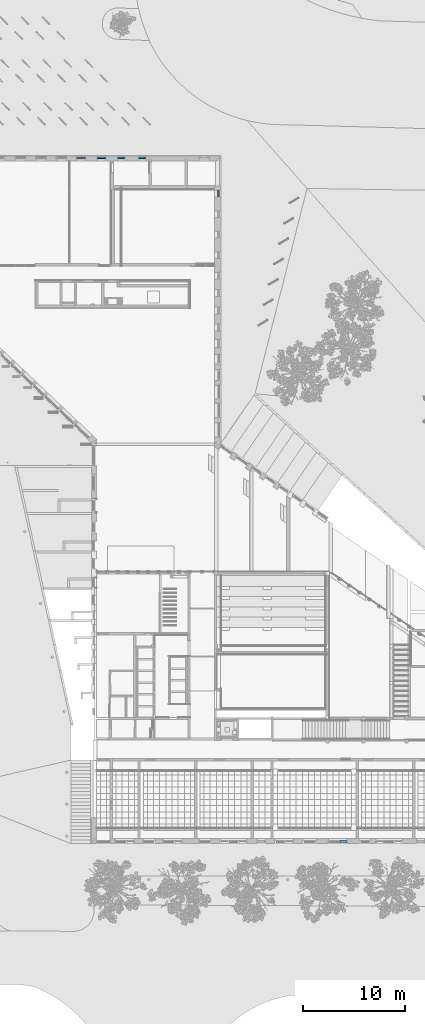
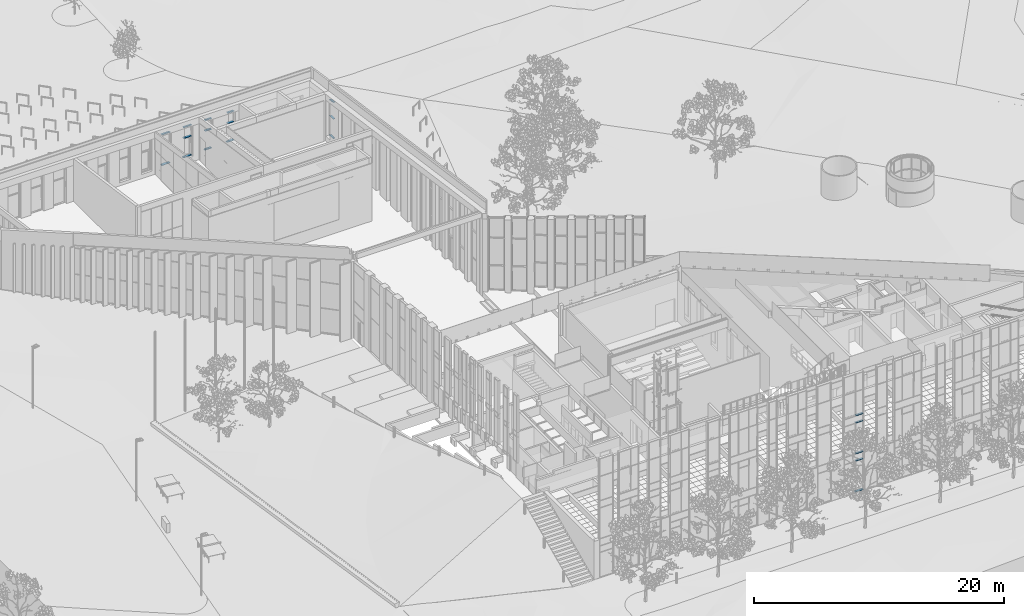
# One storey, part 38 of 246: 19 members, 6 elements without a shape of their own.
"""IFC2X3 building model written with IfcOpenShell, lengths in millimetres."""

from ifc_helpers import new_model, entity, si_unit, converted_unit, derived_unit, money_unit, direction, frame, origin_with_axes, place, context, subcontext, project, spatial, faceted_brep, source, transform, mapped, material, type_object, element, aggregate, save


model = new_model("IFC2X3")

# Units and contexts
model_context = context("Model", 3, precision=0.01, world=origin_with_axes(), true_north=direction((0.0, 1.0)))
body_context = subcontext(model_context, "Body", "Model", "MODEL_VIEW")
ifc_project = project(units=[si_unit("LENGTHUNIT", "METRE", prefix="MILLI"), si_unit("AREAUNIT", "SQUARE_METRE"), si_unit("VOLUMEUNIT", "CUBIC_METRE"), converted_unit("PLANEANGLEUNIT", "DEGREE", entity("IfcPlaneAngleMeasure", 0.0174532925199), si_unit("PLANEANGLEUNIT", "RADIAN"), dimensions=[0, 0, 0, 0, 0, 0, 0]), si_unit("SOLIDANGLEUNIT", "STERADIAN"), money_unit("EUR"), converted_unit("TIMEUNIT", "Year", entity("IfcTimeMeasure", 31556926.0), si_unit("TIMEUNIT", "SECOND"), dimensions=[0, 0, 1, 0, 0, 0, 0]), si_unit("MASSUNIT", "GRAM", prefix="KILO"), si_unit("THERMODYNAMICTEMPERATUREUNIT", "DEGREE_CELSIUS"), si_unit("LUMINOUSINTENSITYUNIT", "LUMEN"), si_unit("ENERGYUNIT", "JOULE", prefix="MEGA"), derived_unit("THERMALCONDUCTANCEUNIT", [(si_unit("POWERUNIT", "WATT"), 1), (si_unit("LENGTHUNIT", "METRE"), -1), (si_unit("THERMODYNAMICTEMPERATUREUNIT", "KELVIN"), -1)]), derived_unit("SPECIFICHEATCAPACITYUNIT", [(si_unit("ENERGYUNIT", "JOULE"), 1), (si_unit("MASSUNIT", "GRAM", prefix="KILO"), -1), (si_unit("THERMODYNAMICTEMPERATUREUNIT", "KELVIN"), -1)]), derived_unit("MASSDENSITYUNIT", [(si_unit("MASSUNIT", "GRAM", prefix="KILO"), 1), (si_unit("VOLUMEUNIT", "CUBIC_METRE"), -1)])], contexts=[model_context])

# Site, building, storey
site_placement = place(None, origin_with_axes())
site = spatial("IfcSite", under=ifc_project, at=site_placement, Name="L.Koidula tn 11b", CompositionType="ELEMENT")
building_placement = place(site_placement, origin_with_axes())
building = spatial("IfcBuilding", under=site, at=building_placement, Name="Rakvere Riigigümnaasium", CompositionType="ELEMENT")
storey_placement = place(building_placement, origin_with_axes())
storey = spatial("IfcBuildingStorey", under=building, at=storey_placement, Name="1.korrus 0,00", CompositionType="ELEMENT", Elevation=0.0)

# Curtain wall, members
curtain_wall_type = type_object("IfcCurtainWallType", Name="Curtain Wall Type", PredefinedType="NOTDEFINED")
curtain_wall_1_placement = place(storey_placement, frame((59064.0000846, 5111.45334637, -8.09717250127e-06), z_axis=(0.0, 0.0, 1.0), x_axis=(1.0, 0.0, 0.0)))
curtain_wall_1 = element("IfcCurtainWall", 1, at=curtain_wall_1_placement, inside=storey, type_object=curtain_wall_type, Name="KLF-05-2A")
ifc_material = material(Name="Alumiiniumprofiil (RAL 7021)")
member_type_1 = type_object("IfcMemberType", Name="50 x 208", PredefinedType="MULLION")
shared_shape_1 = source(origin_with_axes(), body_context, "Body", "Brep", [
    faceted_brep([(-12.0, -27.0, 730.000256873), (-25.0, -27.0, 730.000256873), (-25.0, -160.0, 730.000256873), (25.0, -160.0, 730.000256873), (25.0, -27.0, 730.000256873), (12.0, -27.0, 730.000256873), (12.0, 27.0, 730.000256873), (25.0, 27.0, 730.000256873), (25.0, 48.0, 730.000256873), (-25.0, 48.0, 730.000256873), (-25.0, 27.0, 730.000256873), (-12.0, 27.0, 730.000256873), (-12.0, -27.0, 25.0), (-25.0, -27.0, 25.0), (-25.0, -160.0, 25.0), (25.0, -160.0, 25.0), (25.0, -27.0, 25.0), (12.0, -27.0, 25.0), (12.0, 27.0, 25.0), (25.0, 27.0, 25.0), (25.0, 48.0, 25.0), (-25.0, 48.0, 25.0), (-25.0, 27.0, 25.0), (-12.0, 27.0, 25.0)], [[[0, 1, 2, 3, 4, 5, 6, 7, 8, 9, 10, 11]], [[1, 0, 12, 13]], [[1, 13, 14, 2]], [[2, 14, 15, 3]], [[4, 3, 15, 16]], [[4, 16, 17, 5]], [[5, 17, 18, 6]], [[7, 6, 18, 19]], [[19, 20, 8, 7]], [[8, 20, 21, 9]], [[22, 10, 9, 21]], [[11, 10, 22, 23]], [[0, 11, 23, 12]], [[23, 22, 21, 20, 19, 18, 17, 16, 15, 14, 13, 12]]]),
])
member_1_placement = place(curtain_wall_1_placement, frame((140.999912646, 0.0, 6760.0), z_axis=(1.0, 0.0, 0.0), x_axis=(0.0, 0.0, 1.0)))
member_1 = element("IfcMember", 2, at=member_1_placement, type_object=member_type_1, material=ifc_material, Name="KLF-33", ObjectType="MULLION", context=body_context, shape_type="MappedRepresentation", body=[
    mapped(shared_shape_1, transform((0.0, 0.0, 0.0))),
])
member_2_placement = place(curtain_wall_1_placement, frame((140.999912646, 0.0, 3745.0), z_axis=(1.0, 0.0, 0.0), x_axis=(0.0, 0.0, 1.0)))
member_2 = element("IfcMember", 3, at=member_2_placement, type_object=member_type_1, material=ifc_material, Name="KLF-08", ObjectType="MULLION", context=body_context, shape_type="MappedRepresentation", body=[
    mapped(shared_shape_1, transform((0.0, 0.0, 0.0))),
])
member_3_placement = place(curtain_wall_1_placement, frame((140.999912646, 0.0, 7465.0), z_axis=(1.0, 0.0, 0.0), x_axis=(0.0, 0.0, 1.0)))
member_3 = element("IfcMember", 4, at=member_3_placement, type_object=member_type_1, material=ifc_material, Name="KLF-57", ObjectType="MULLION", context=body_context, shape_type="MappedRepresentation", body=[
    mapped(shared_shape_1, transform((0.0, 0.0, 0.0))),
])
member_4_placement = place(curtain_wall_1_placement, frame((140.999912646, 0.0, 3040.0), z_axis=(1.0, 0.0, 0.0), x_axis=(0.0, 0.0, 1.0)))
member_4 = element("IfcMember", 5, at=member_4_placement, type_object=member_type_1, material=ifc_material, Name="KLF-09", ObjectType="MULLION", context=body_context, shape_type="MappedRepresentation", body=[
    mapped(shared_shape_1, transform((0.0, 0.0, 0.0))),
])

# Curtain wall, member
curtain_wall_2_placement = place(storey_placement, frame((39944.5199736, 71934.4519938, 599.999957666), z_axis=(0.0, 0.0, 1.0), x_axis=(1.0, 0.0, 0.0)))
curtain_wall_2 = element("IfcCurtainWall", 6, at=curtain_wall_2_placement, inside=storey, type_object=curtain_wall_type, Name="KLF-08-10")
member_type_2 = type_object("IfcMemberType", Name="Transom Frame 50 x 170", PredefinedType="MULLION")
shared_shape_2 = source(origin_with_axes(), body_context, "Body", "Brep", [
    faceted_brep([(12.0, -26.0, 599.999961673), (12.0, 26.0, 599.999961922), (25.0, 26.0, 599.999961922), (25.0, 46.0, 599.999962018), (-25.0, 46.0, 599.999962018), (-25.0, 26.0, 599.999961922), (-12.0, 26.0, 599.999961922), (-12.0, -26.0, 599.999961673), (-25.0, -26.0, 599.999961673), (-25.0, -124.0, 599.999961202), (25.0, -124.0, 599.999961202), (25.0, -26.0, 599.999961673), (12.0, -26.0, 50.0), (12.0, 26.0, 50.0), (25.0, 26.0, 50.0), (25.0, 46.0, 50.0), (-25.0, 46.0, 50.0), (-25.0, 26.0, 50.0), (-12.0, 26.0, 50.0), (-12.0, -26.0, 50.0), (-25.0, -26.0, 50.0), (-25.0, -124.0, 50.0), (25.0, -124.0, 50.0), (25.0, -26.0, 50.0)], [[[0, 1, 2, 3, 4, 5, 6, 7, 8, 9, 10, 11]], [[0, 12, 13, 1]], [[1, 13, 14, 2]], [[14, 15, 3, 2]], [[4, 3, 15, 16]], [[17, 5, 4, 16]], [[5, 17, 18, 6]], [[7, 6, 18, 19]], [[8, 7, 19, 20]], [[8, 20, 21, 9]], [[10, 9, 21, 22]], [[11, 10, 22, 23]], [[11, 23, 12, 0]], [[13, 12, 23, 22, 21, 20, 19, 18, 17, 16, 15, 14]]]),
])
member_5_placement = place(curtain_wall_2_placement, frame((-324.999985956, 0.0, 1820.0001719), z_axis=(1.0, 0.0, 0.0), x_axis=(0.0, 0.0, 1.0)))
member_5 = element("IfcMember", 7, at=member_5_placement, type_object=member_type_2, material=ifc_material, Name="KLF-08-27-Profiilid", ObjectType="MULLION", context=body_context, shape_type="MappedRepresentation", body=[
    mapped(shared_shape_2, transform((0.0, 0.0, 0.0), x_axis=(-1.0, 0.0, 0.0), y_axis=(0.0, -1.0, 0.0), z_axis=(0.0, 0.0, 1.0))),
])

curtain_wall_3_placement = place(storey_placement, frame((47433.9999935, 68420.4546651, 500.0), z_axis=(0.0, 0.0, 1.0), x_axis=(1.0, 0.0, 0.0)))
curtain_wall_3 = element("IfcCurtainWall", 8, at=curtain_wall_3_placement, inside=storey, type_object=curtain_wall_type, Name="KLF-07-14")
member_6_placement = place(curtain_wall_3_placement, frame((0.0, 325.000053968, 1900.0), z_axis=(0.0, -1.0, 0.0), x_axis=(0.0, 0.0, 1.0)))
member_6 = element("IfcMember", 9, at=member_6_placement, type_object=member_type_2, material=ifc_material, Name="KLF-07-24-Profiilid", ObjectType="MULLION", context=body_context, shape_type="MappedRepresentation", body=[
    mapped(shared_shape_2, transform((0.0, 0.0, 0.0), x_axis=(-1.0, 0.0, 0.0), y_axis=(0.0, -1.0, 0.0), z_axis=(0.0, 0.0, 1.0))),
])

curtain_wall_4_placement = place(storey_placement, frame((37894.5353831, 71934.4519938, 550.0), z_axis=(0.0, 0.0, 1.0), x_axis=(1.0, 0.0, 0.0)))
curtain_wall_4 = element("IfcCurtainWall", 10, at=curtain_wall_4_placement, inside=storey, type_object=curtain_wall_type, Name="KLF-08-09")
member_7_placement = place(curtain_wall_4_placement, frame((-325.000094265, 0.0, 1850.00012484), z_axis=(1.0, 0.0, 0.0), x_axis=(0.0, 0.0, 1.0)))
member_7 = element("IfcMember", 11, at=member_7_placement, type_object=member_type_2, material=ifc_material, Name="KLF-08-26-Profiilid", ObjectType="MULLION", context=body_context, shape_type="MappedRepresentation", body=[
    mapped(shared_shape_2, transform((0.0, 0.0, 0.0), x_axis=(-1.0, 0.0, 0.0), y_axis=(0.0, -1.0, 0.0), z_axis=(0.0, 0.0, 1.0))),
])

# Member
member_type_3 = type_object("IfcMemberType", Name="Boundary Frame 50 x 170", PredefinedType="MULLION")
shared_shape_3 = source(origin_with_axes(), body_context, "Body", "Brep", [
    faceted_brep([(-37.0, -26.0, 612.999970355), (-50.0, -26.0, 599.999970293), (-50.0, -124.0, 599.999970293), (0.0, -124.0, 649.999970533), (0.0, 46.0, 649.999970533), (-50.0, 46.0, 599.999970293), (-50.0, 26.0, 599.999970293), (-37.0, 26.0, 612.999970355), (-37.0, -26.0, 37.0), (-50.0, -26.0, 50.0), (-50.0, -124.0, 50.0), (0.0, -124.0, 0.0), (0.0, 46.0, 0.0), (-50.0, 46.0, 50.0), (-50.0, 26.0, 50.0), (-37.0, 26.0, 37.0)], [[[0, 1, 2, 3, 4, 5, 6, 7]], [[0, 8, 9, 1]], [[9, 10, 2, 1]], [[2, 10, 11, 3]], [[3, 11, 12, 4]], [[4, 12, 13, 5]], [[6, 5, 13, 14]], [[14, 15, 7, 6]], [[7, 15, 8, 0]], [[8, 15, 14, 13, 12, 11, 10, 9]]]),
])
member_8_placement = place(curtain_wall_2_placement, frame((-324.999985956, 0.0, 0.0), z_axis=(1.0, 0.0, 0.0), x_axis=(0.0, 0.0, 1.0)))
member_8 = element("IfcMember", 12, at=member_8_placement, type_object=member_type_3, material=ifc_material, Name="KLF-08-44-Profiilid", ObjectType="MULLION", context=body_context, shape_type="MappedRepresentation", body=[
    mapped(shared_shape_3, transform((0.0, 0.0, 0.0), x_axis=(-1.0, 0.0, 0.0), y_axis=(0.0, -1.0, 0.0), z_axis=(0.0, 0.0, 1.0))),
])

member_9_placement = place(curtain_wall_2_placement, frame((324.999975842, 0.0, 2879.66169896), z_axis=(-1.0, 0.0, 0.0), x_axis=(0.0, 0.0, -1.0)))
member_9 = element("IfcMember", 13, at=member_9_placement, type_object=member_type_3, material=ifc_material, Name="KLF-08-47-Profiilid", ObjectType="MULLION", context=body_context, shape_type="MappedRepresentation", body=[
    mapped(shared_shape_3, transform((0.0, 0.0, 0.0), x_axis=(-1.0, 0.0, 0.0), y_axis=(0.0, -1.0, 0.0), z_axis=(0.0, 0.0, 1.0))),
])

aggregate(curtain_wall_2, [member_5, member_8, member_9])

member_10_placement = place(curtain_wall_3_placement, frame((0.0, 325.000106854, 0.0), z_axis=(0.0, -1.0, 0.0), x_axis=(0.0, 0.0, 1.0)))
member_10 = element("IfcMember", 14, at=member_10_placement, type_object=member_type_3, material=ifc_material, Name="KLF-07-86-Profiilid", ObjectType="MULLION", context=body_context, shape_type="MappedRepresentation", body=[
    mapped(shared_shape_3, transform((0.0, 0.0, 0.0), x_axis=(-1.0, 0.0, 0.0), y_axis=(0.0, -1.0, 0.0), z_axis=(0.0, 0.0, 1.0))),
])

member_11_placement = place(curtain_wall_4_placement, frame((-325.000094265, 0.0, 0.0), z_axis=(1.0, 0.0, 0.0), x_axis=(0.0, 0.0, 1.0)))
member_11 = element("IfcMember", 15, at=member_11_placement, type_object=member_type_3, material=ifc_material, Name="KLF-08-43-Profiilid", ObjectType="MULLION", context=body_context, shape_type="MappedRepresentation", body=[
    mapped(shared_shape_3, transform((0.0, 0.0, 0.0), x_axis=(-1.0, 0.0, 0.0), y_axis=(0.0, -1.0, 0.0), z_axis=(0.0, 0.0, 1.0))),
])

member_12_placement = place(curtain_wall_4_placement, frame((325.000084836, 0.0, 2929.99988915), z_axis=(-1.0, 0.0, 0.0), x_axis=(0.0, 0.0, -1.0)))
member_12 = element("IfcMember", 16, at=member_12_placement, type_object=member_type_3, material=ifc_material, Name="KLF-08-46-Profiilid", ObjectType="MULLION", context=body_context, shape_type="MappedRepresentation", body=[
    mapped(shared_shape_3, transform((0.0, 0.0, 0.0), x_axis=(-1.0, 0.0, 0.0), y_axis=(0.0, -1.0, 0.0), z_axis=(0.0, 0.0, 1.0))),
])

aggregate(curtain_wall_4, [member_7, member_11, member_12])

# Curtain wall, members
curtain_wall_5_placement = place(storey_placement, frame((35969.5353612, 71934.4519938, 500.0), z_axis=(0.0, 0.0, 1.0), x_axis=(1.0, 0.0, 0.0)))
curtain_wall_5 = element("IfcCurtainWall", 17, at=curtain_wall_5_placement, inside=storey, type_object=curtain_wall_type, Name="KLF-08-08")
shared_shape_4 = source(origin_with_axes(), body_context, "Body", "Brep", [
    faceted_brep([(12.0, -26.0, 750.000123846), (12.0, 26.0, 750.000123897), (25.0, 26.0, 750.000123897), (25.0, 46.0, 750.000123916), (-25.0, 46.0, 750.000123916), (-25.0, 26.0, 750.000123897), (-12.0, 26.0, 750.000123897), (-12.0, -26.0, 750.000123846), (-25.0, -26.0, 750.000123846), (-25.0, -124.0, 750.000123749), (25.0, -124.0, 750.000123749), (25.0, -26.0, 750.000123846), (12.0, -26.0, 50.0), (12.0, 26.0, 50.0), (25.0, 26.0, 50.0), (25.0, 46.0, 50.0), (-25.0, 46.0, 50.0), (-25.0, 26.0, 50.0), (-12.0, 26.0, 50.0), (-12.0, -26.0, 50.0), (-25.0, -26.0, 50.0), (-25.0, -124.0, 50.0), (25.0, -124.0, 50.0), (25.0, -26.0, 50.0)], [[[0, 1, 2, 3, 4, 5, 6, 7, 8, 9, 10, 11]], [[0, 12, 13, 1]], [[1, 13, 14, 2]], [[14, 15, 3, 2]], [[4, 3, 15, 16]], [[17, 5, 4, 16]], [[5, 17, 18, 6]], [[7, 6, 18, 19]], [[8, 7, 19, 20]], [[8, 20, 21, 9]], [[10, 9, 21, 22]], [[11, 10, 22, 23]], [[11, 23, 12, 0]], [[13, 12, 23, 22, 21, 20, 19, 18, 17, 16, 15, 14]]]),
])
member_13_placement = place(curtain_wall_5_placement, frame((-400.000064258, 0.0, 1900.00011279), z_axis=(1.0, 0.0, 0.0), x_axis=(0.0, 0.0, 1.0)))
member_13 = element("IfcMember", 18, at=member_13_placement, type_object=member_type_2, material=ifc_material, Name="KLF-08-30-Profiilid", ObjectType="MULLION", context=body_context, shape_type="MappedRepresentation", body=[
    mapped(shared_shape_4, transform((0.0, 0.0, 0.0), x_axis=(-1.0, 0.0, 0.0), y_axis=(0.0, -1.0, 0.0), z_axis=(0.0, 0.0, 1.0))),
])
shared_shape_5 = source(origin_with_axes(), body_context, "Body", "Brep", [
    faceted_brep([(-37.0, -26.0, 763.000114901), (-50.0, -26.0, 750.000115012), (-50.0, -124.0, 750.000115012), (0.0, -124.0, 800.000114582), (0.0, 46.0, 800.000114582), (-50.0, 46.0, 750.000115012), (-50.0, 26.0, 750.000115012), (-37.0, 26.0, 763.000114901), (-37.0, -26.0, 37.0), (-50.0, -26.0, 50.0), (-50.0, -124.0, 50.0), (0.0, -124.0, 0.0), (0.0, 46.0, 0.0), (-50.0, 46.0, 50.0), (-50.0, 26.0, 50.0), (-37.0, 26.0, 37.0)], [[[0, 1, 2, 3, 4, 5, 6, 7]], [[0, 8, 9, 1]], [[9, 10, 2, 1]], [[2, 10, 11, 3]], [[3, 11, 12, 4]], [[4, 12, 13, 5]], [[6, 5, 13, 14]], [[14, 15, 7, 6]], [[7, 15, 8, 0]], [[8, 15, 14, 13, 12, 11, 10, 9]]]),
])
member_14_placement = place(curtain_wall_5_placement, frame((400.000059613, 0.0, 2980.00001101), z_axis=(-1.0, 0.0, 0.0), x_axis=(0.0, 0.0, -1.0)))
member_14 = element("IfcMember", 19, at=member_14_placement, type_object=member_type_3, material=ifc_material, Name="KLF-08-45-Profiilid", ObjectType="MULLION", context=body_context, shape_type="MappedRepresentation", body=[
    mapped(shared_shape_5, transform((0.0, 0.0, 0.0), x_axis=(-1.0, 0.0, 0.0), y_axis=(0.0, -1.0, 0.0), z_axis=(0.0, 0.0, 1.0))),
])
member_15_placement = place(curtain_wall_5_placement, frame((-400.000064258, 0.0, 0.0), z_axis=(1.0, 0.0, 0.0), x_axis=(0.0, 0.0, 1.0)))
member_15 = element("IfcMember", 20, at=member_15_placement, type_object=member_type_3, material=ifc_material, Name="KLF-08-42-Profiilid", ObjectType="MULLION", context=body_context, shape_type="MappedRepresentation", body=[
    mapped(shared_shape_5, transform((0.0, 0.0, 0.0), x_axis=(-1.0, 0.0, 0.0), y_axis=(0.0, -1.0, 0.0), z_axis=(0.0, 0.0, 1.0))),
])
aggregate(curtain_wall_5, [member_14, member_13, member_15])

# Member
shared_shape_6 = source(origin_with_axes(), body_context, "Body", "Brep", [
    faceted_brep([(-37.0, -26.0, 624.449446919), (-50.0, -26.0, 613.169206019), (-50.0, -124.0, 613.169206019), (0.0, -124.0, 656.554747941), (0.0, 46.0, 656.554747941), (-50.0, 46.0, 613.169206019), (-50.0, 26.0, 613.169206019), (-37.0, 26.0, 624.449446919), (-37.0, -26.0, 42.640934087), (-50.0, -26.0, 57.6228839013), (-50.0, -124.0, 57.6228839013), (0.0, -124.0, 0.0), (0.0, 46.0, 0.0), (-50.0, 46.0, 57.6228839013), (-50.0, 26.0, 57.6228839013), (-37.0, 26.0, 42.640934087)], [[[0, 1, 2, 3, 4, 5, 6, 7]], [[0, 8, 9, 1]], [[9, 10, 2, 1]], [[2, 10, 11, 3]], [[3, 11, 12, 4]], [[4, 12, 13, 5]], [[6, 5, 13, 14]], [[14, 15, 7, 6]], [[7, 15, 8, 0]], [[8, 15, 14, 13, 12, 11, 10, 9]]]),
])
member_16_placement = place(curtain_wall_3_placement, frame((0.0, -324.999946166, 3572.9934031), z_axis=(0.0, 0.990016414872, -0.140952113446), x_axis=(0.0, -0.140952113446, -0.990016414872)))
member_16 = element("IfcMember", 21, at=member_16_placement, type_object=member_type_3, material=ifc_material, Name="KLF-07-89-Profiilid", ObjectType="MULLION", context=body_context, shape_type="MappedRepresentation", body=[
    mapped(shared_shape_6, transform((0.0, 0.0, 0.0), x_axis=(-1.0, 0.0, 0.0), y_axis=(0.0, -1.0, 0.0), z_axis=(0.0, 0.0, 1.0))),
])

aggregate(curtain_wall_3, [member_6, member_10, member_16])

shared_shape_7 = source(origin_with_axes(), body_context, "Body", "Brep", [
    faceted_brep([(37.0, -27.0, 730.000256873), (37.0, 27.0, 730.000256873), (50.0, 27.0, 730.000256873), (50.0, 48.0, 730.000256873), (0.0, 48.0, 730.000256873), (0.0, -160.0, 730.000256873), (50.0, -160.0, 730.000256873), (50.0, -27.0, 730.000256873), (37.0, -27.0, -25.0), (37.0, 27.0, -25.0), (50.0, 27.0, -25.0), (50.0, 48.0, -25.0), (0.0, 48.0, -25.0), (0.0, -160.0, -25.0), (50.0, -160.0, -25.0), (50.0, -27.0, -25.0)], [[[0, 1, 2, 3, 4, 5, 6, 7]], [[1, 0, 8, 9]], [[10, 2, 1, 9]], [[2, 10, 11, 3]], [[12, 4, 3, 11]], [[13, 5, 4, 12]], [[14, 6, 5, 13]], [[15, 7, 6, 14]], [[0, 7, 15, 8]], [[8, 15, 14, 13, 12, 11, 10, 9]]]),
])
member_17_placement = place(curtain_wall_1_placement, frame((140.999912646, 0.0, 0.0), z_axis=(1.0, 0.0, 0.0), x_axis=(0.0, 0.0, 1.0)))
member_17 = element("IfcMember", 22, at=member_17_placement, type_object=member_type_1, material=ifc_material, Name="KLF-55", ObjectType="MULLION", context=body_context, shape_type="MappedRepresentation", body=[
    mapped(shared_shape_7, transform((0.0, 0.0, 0.0))),
])

aggregate(curtain_wall_1, [member_1, member_17, member_2, member_3, member_4])

# Curtain wall, members
curtain_wall_6_placement = place(storey_placement, frame((33969.5426693, 71934.5046172, 450.0), z_axis=(0.0, 0.0, 1.0), x_axis=(1.0, 0.0, 0.0)))
curtain_wall_6 = element("IfcCurtainWall", 23, at=curtain_wall_6_placement, inside=storey, type_object=curtain_wall_type, Name="KLF-08-07")
shared_shape_8 = source(origin_with_axes(), body_context, "Body", "Brep", [
    faceted_brep([(-37.0, -26.0, 763.007125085), (-50.0, -26.0, 750.007125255), (-50.0, -124.0, 750.007125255), (0.0, -124.0, 800.007124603), (0.0, 46.0, 800.007124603), (-50.0, 46.0, 750.007125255), (-50.0, 26.0, 750.007125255), (-37.0, 26.0, 763.007125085), (-37.0, -26.0, 37.0), (-50.0, -26.0, 50.0), (-50.0, -124.0, 50.0), (0.0, -124.0, 0.0), (0.0, 46.0, 0.0), (-50.0, 46.0, 50.0), (-50.0, 26.0, 50.0), (-37.0, 26.0, 37.0)], [[[0, 1, 2, 3, 4, 5, 6, 7]], [[0, 8, 9, 1]], [[9, 10, 2, 1]], [[2, 10, 11, 3]], [[3, 11, 12, 4]], [[4, 12, 13, 5]], [[6, 5, 13, 14]], [[14, 15, 7, 6]], [[7, 15, 8, 0]], [[8, 15, 14, 13, 12, 11, 10, 9]]]),
])
member_18_placement = place(curtain_wall_6_placement, frame((400.00356582, 0.0, 3029.66153933), z_axis=(-1.0, 0.0, 0.0), x_axis=(0.0, 0.0, -1.0)))
member_18 = element("IfcMember", 24, at=member_18_placement, type_object=member_type_3, material=ifc_material, Name="KLF-08-57-Profiilid", ObjectType="MULLION", context=body_context, shape_type="MappedRepresentation", body=[
    mapped(shared_shape_8, transform((0.0, 0.0, 0.0), x_axis=(-1.0, 0.0, 0.0), y_axis=(0.0, -1.0, 0.0), z_axis=(0.0, 0.0, 1.0))),
])
member_19_placement = place(curtain_wall_6_placement, frame((-400.003572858, 0.0, 0.0), z_axis=(1.0, 0.0, 0.0), x_axis=(0.0, 0.0, 1.0)))
member_19 = element("IfcMember", 25, at=member_19_placement, type_object=member_type_3, material=ifc_material, Name="KLF-08-54-Profiilid", ObjectType="MULLION", context=body_context, shape_type="MappedRepresentation", body=[
    mapped(shared_shape_8, transform((0.0, 0.0, 0.0), x_axis=(-1.0, 0.0, 0.0), y_axis=(0.0, -1.0, 0.0), z_axis=(0.0, 0.0, 1.0))),
])
aggregate(curtain_wall_6, [member_18, member_19])

save(model, "model.ifc")
